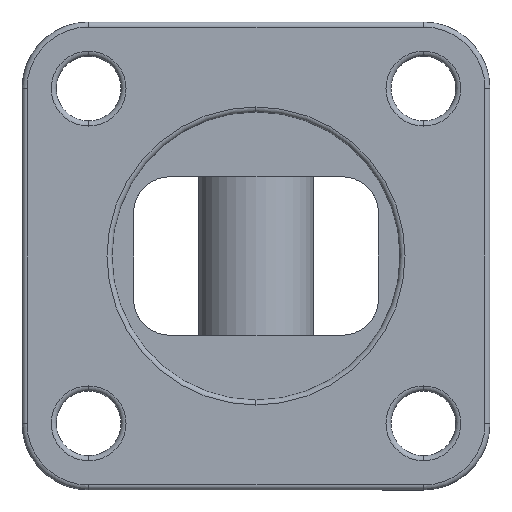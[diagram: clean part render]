
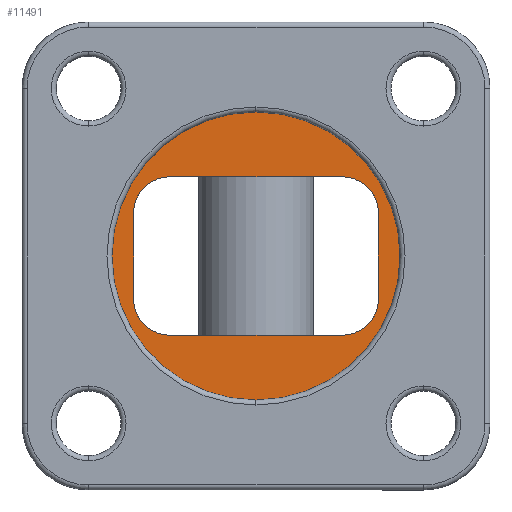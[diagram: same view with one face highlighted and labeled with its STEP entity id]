
A CAD part, front view. The second image highlights one B-rep face of the part: STEP entity #11491.
In plain terms, the highlighted planar face has unit normal (0, -1, 0).
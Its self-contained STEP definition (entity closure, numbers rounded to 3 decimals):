
#286 = AXIS2_PLACEMENT_3D ( 'NONE', #3575, #13137, #4959 ) ;
#1076 = DIRECTION ( 'NONE',  ( 0., -1., 0. ) ) ;
#1171 = DIRECTION ( 'NONE',  ( 0., 0., -1. ) ) ;
#1193 = EDGE_CURVE ( 'NONE', #9117, #9658, #14747, .T. ) ;
#1282 = CARTESIAN_POINT ( 'NONE',  ( 12., 5., 11. ) ) ;
#1531 = EDGE_CURVE ( 'NONE', #8175, #15018, #16906, .T. ) ;
#1553 = VERTEX_POINT ( 'NONE', #13658 ) ;
#1573 = DIRECTION ( 'NONE',  ( 0., -1., 0. ) ) ;
#2174 = CIRCLE ( 'NONE', #17662, 20. ) ;
#2402 = AXIS2_PLACEMENT_3D ( 'NONE', #9280, #1076, #10653 ) ;
#2460 = CARTESIAN_POINT ( 'NONE',  ( 0., 5., 11. ) ) ;
#2548 = CARTESIAN_POINT ( 'NONE',  ( 0., 5., 0. ) ) ;
#2840 = ORIENTED_EDGE ( 'NONE', *, *, #6602, .F. ) ;
#2896 = VECTOR ( 'NONE', #7438, 1000. ) ;
#3294 = DIRECTION ( 'NONE',  ( 0., -1., 0. ) ) ;
#3491 = EDGE_CURVE ( 'NONE', #10060, #1553, #2174, .T. ) ;
#3575 = CARTESIAN_POINT ( 'NONE',  ( 12., 5., -6. ) ) ;
#4278 = CIRCLE ( 'NONE', #16361, 5. ) ;
#4494 = CIRCLE ( 'NONE', #10767, 5. ) ;
#4578 = FACE_BOUND ( 'NONE', #15525, .T. ) ;
#4705 = VECTOR ( 'NONE', #17267, 1000. ) ;
#4852 = ORIENTED_EDGE ( 'NONE', *, *, #14323, .F. ) ;
#4959 = DIRECTION ( 'NONE',  ( 0., 0., -1. ) ) ;
#5133 = AXIS2_PLACEMENT_3D ( 'NONE', #14983, #16449, #16634 ) ;
#5160 = EDGE_CURVE ( 'NONE', #17547, #6646, #16630, .T. ) ;
#6233 = EDGE_CURVE ( 'NONE', #10085, #9117, #4494, .T. ) ;
#6519 = ORIENTED_EDGE ( 'NONE', *, *, #1531, .F. ) ;
#6602 = EDGE_CURVE ( 'NONE', #13947, #8175, #7955, .T. ) ;
#6646 = VERTEX_POINT ( 'NONE', #17446 ) ;
#6993 = CARTESIAN_POINT ( 'NONE',  ( -17., 5., 6. ) ) ;
#7109 = EDGE_CURVE ( 'NONE', #1553, #10060, #17626, .T. ) ;
#7438 = DIRECTION ( 'NONE',  ( 0., 0., -1. ) ) ;
#7955 = LINE ( 'NONE', #2460, #4705 ) ;
#8175 = VERTEX_POINT ( 'NONE', #12139 ) ;
#8243 = FACE_OUTER_BOUND ( 'NONE', #14469, .T. ) ;
#8835 = CARTESIAN_POINT ( 'NONE',  ( -17., 5., 0. ) ) ;
#9026 = CARTESIAN_POINT ( 'NONE',  ( 0., 5., 20. ) ) ;
#9117 = VERTEX_POINT ( 'NONE', #11044 ) ;
#9140 = CARTESIAN_POINT ( 'NONE',  ( 12., 5., -11. ) ) ;
#9274 = EDGE_CURVE ( 'NONE', #15018, #10085, #9764, .T. ) ;
#9280 = CARTESIAN_POINT ( 'NONE',  ( 0., 5., 0. ) ) ;
#9383 = DIRECTION ( 'NONE',  ( 0., -1., 0. ) ) ;
#9528 = ORIENTED_EDGE ( 'NONE', *, *, #6233, .F. ) ;
#9658 = VERTEX_POINT ( 'NONE', #9140 ) ;
#9764 = LINE ( 'NONE', #8835, #2896 ) ;
#9803 = CARTESIAN_POINT ( 'NONE',  ( -12., 5., -6. ) ) ;
#10060 = VERTEX_POINT ( 'NONE', #9026 ) ;
#10085 = VERTEX_POINT ( 'NONE', #14659 ) ;
#10653 = DIRECTION ( 'NONE',  ( 0., 0., -1. ) ) ;
#10696 = DIRECTION ( 'NONE',  ( 0., 0., 1. ) ) ;
#10727 = VECTOR ( 'NONE', #16332, 1000. ) ;
#10767 = AXIS2_PLACEMENT_3D ( 'NONE', #9803, #1573, #11172 ) ;
#10811 = ORIENTED_EDGE ( 'NONE', *, *, #16181, .F. ) ;
#11044 = CARTESIAN_POINT ( 'NONE',  ( -12., 5., -11. ) ) ;
#11172 = DIRECTION ( 'NONE',  ( 0., 0., -1. ) ) ;
#11187 = CARTESIAN_POINT ( 'NONE',  ( 17., 5., 0. ) ) ;
#11491 = ADVANCED_FACE ( 'NONE', ( #4578, #8243 ), #17474, .T. ) ;
#11495 = CARTESIAN_POINT ( 'NONE',  ( 12., 5., 6. ) ) ;
#11702 = ORIENTED_EDGE ( 'NONE', *, *, #5160, .F. ) ;
#11900 = ORIENTED_EDGE ( 'NONE', *, *, #7109, .T. ) ;
#12139 = CARTESIAN_POINT ( 'NONE',  ( -12., 5., 11. ) ) ;
#12758 = ORIENTED_EDGE ( 'NONE', *, *, #9274, .F. ) ;
#12865 = DIRECTION ( 'NONE',  ( 0., 0., -1. ) ) ;
#13137 = DIRECTION ( 'NONE',  ( 0., -1., 0. ) ) ;
#13658 = CARTESIAN_POINT ( 'NONE',  ( 0., 5., -20. ) ) ;
#13947 = VERTEX_POINT ( 'NONE', #1282 ) ;
#14032 = ORIENTED_EDGE ( 'NONE', *, *, #1193, .F. ) ;
#14323 = EDGE_CURVE ( 'NONE', #6646, #13947, #4278, .T. ) ;
#14469 = EDGE_LOOP ( 'NONE', ( #11900, #15032 ) ) ;
#14534 = AXIS2_PLACEMENT_3D ( 'NONE', #16116, #9383, #1171 ) ;
#14659 = CARTESIAN_POINT ( 'NONE',  ( -17., 5., -6. ) ) ;
#14747 = LINE ( 'NONE', #16095, #10727 ) ;
#14934 = CARTESIAN_POINT ( 'NONE',  ( 17., 5., -6. ) ) ;
#14983 = CARTESIAN_POINT ( 'NONE',  ( -12., 5., 6. ) ) ;
#15018 = VERTEX_POINT ( 'NONE', #6993 ) ;
#15032 = ORIENTED_EDGE ( 'NONE', *, *, #3491, .T. ) ;
#15373 = DIRECTION ( 'NONE',  ( 0., 0., -1. ) ) ;
#15525 = EDGE_LOOP ( 'NONE', ( #6519, #2840, #4852, #11702, #10811, #14032, #9528, #12758 ) ) ;
#16095 = CARTESIAN_POINT ( 'NONE',  ( 0., 5., -11. ) ) ;
#16116 = CARTESIAN_POINT ( 'NONE',  ( 0., 5., 0. ) ) ;
#16181 = EDGE_CURVE ( 'NONE', #9658, #17547, #17181, .T. ) ;
#16332 = DIRECTION ( 'NONE',  ( 1., 0., 0. ) ) ;
#16361 = AXIS2_PLACEMENT_3D ( 'NONE', #11495, #3294, #12865 ) ;
#16449 = DIRECTION ( 'NONE',  ( 0., -1., 0. ) ) ;
#16630 = LINE ( 'NONE', #11187, #17037 ) ;
#16634 = DIRECTION ( 'NONE',  ( 0., 0., -1. ) ) ;
#16906 = CIRCLE ( 'NONE', #5133, 5. ) ;
#17037 = VECTOR ( 'NONE', #10696, 1000. ) ;
#17181 = CIRCLE ( 'NONE', #286, 5. ) ;
#17267 = DIRECTION ( 'NONE',  ( -1., 0., 0. ) ) ;
#17446 = CARTESIAN_POINT ( 'NONE',  ( 17., 5., 6. ) ) ;
#17474 = PLANE ( 'NONE',  #14534 ) ;
#17514 = DIRECTION ( 'NONE',  ( 0., -1., 0. ) ) ;
#17547 = VERTEX_POINT ( 'NONE', #14934 ) ;
#17626 = CIRCLE ( 'NONE', #2402, 20. ) ;
#17662 = AXIS2_PLACEMENT_3D ( 'NONE', #2548, #17514, #15373 ) ;
